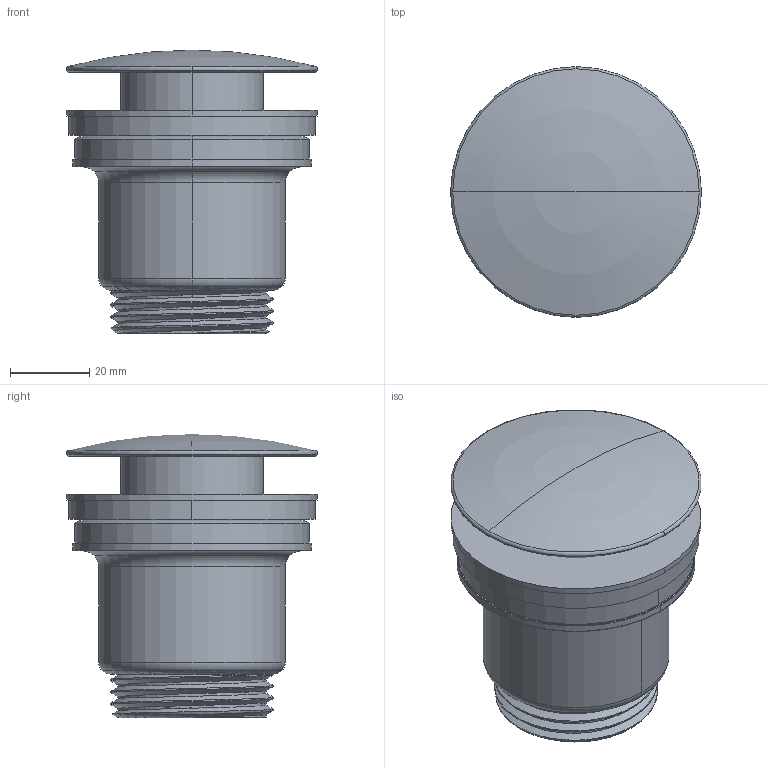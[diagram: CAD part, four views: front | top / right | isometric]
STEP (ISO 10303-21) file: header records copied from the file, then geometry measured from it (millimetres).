
FILE_DESCRIPTION((''),'2;1');
FILE_NAME('23870--00_SUB01_SW0001','2026-09-10T10:32:54',('simi1'),(''),'CREO PARAMETRIC BY PTC INC, 2022244','CREO PARAMETRIC BY PTC INC, 2022244','');
FILE_SCHEMA(('CONFIG_CONTROL_DESIGN'));
Length unit declared in the file: millimetre
Products named in the file (1): 23870--00_SUB01_SW0001
Bounding box: 63.14 x 63.14 x 71.4 mm (x, y, z)
Surface area: 49186.3 mm2 (no closed solid volume)
Topology: 0 solids, 8 shells, 134 faces, 363 edges, 226 vertices
Faces by surface type: torus 60, cylinder 48, plane 15, sphere 8, bspline 3
Entity records: 6543 total; most frequent: CARTESIAN_POINT 3126, DIRECTION 774, ORIENTED_EDGE 687, EDGE_CURVE 361, AXIS2_PLACEMENT_3D 352, VERTEX_POINT 226, CIRCLE 221, EDGE_LOOP 134
